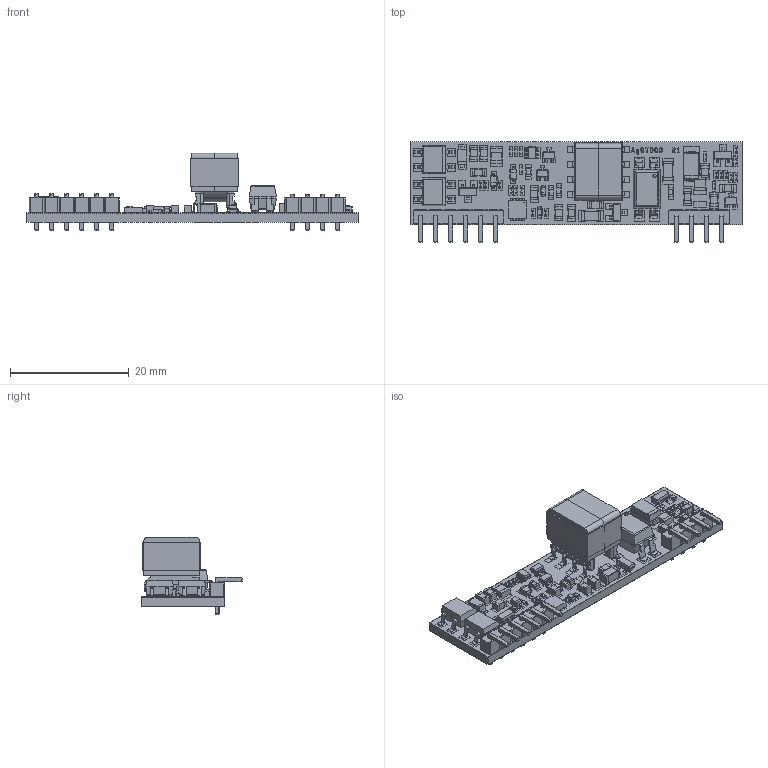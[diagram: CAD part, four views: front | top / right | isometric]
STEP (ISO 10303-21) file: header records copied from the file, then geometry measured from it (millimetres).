
FILE_DESCRIPTION(('FreeCAD Model'),'2;1');
FILE_NAME('Open CASCADE Shape Model','2026-04-21T10:30:47',(''),(''), 'Open CASCADE STEP processor 7.8','FreeCAD','Unknown');
FILE_SCHEMA(('AUTOMOTIVE_DESIGN { 1 0 10303 214 1 1 1 1 }'));
Products named in the file (1): Ag97000_detailed
Bounding box: 56.01 x 17.03 x 13.05 mm (x, y, z)
Volume: 1710.1 mm3; surface area: 7508.7 mm2
Topology: 58 solids, 92 shells, 4592 faces, 12439 edges, 7894 vertices
Faces by surface type: extrusion 3097, revolution 1211, bspline 284
Entity records: 152008 total; most frequent: CARTESIAN_POINT 27669, ORIENTED_EDGE 24592, DIRECTION 22855, VECTOR 16946, LINE 13849, EDGE_CURVE 12319, VERTEX_POINT 7894, FACE_BOUND 5119
